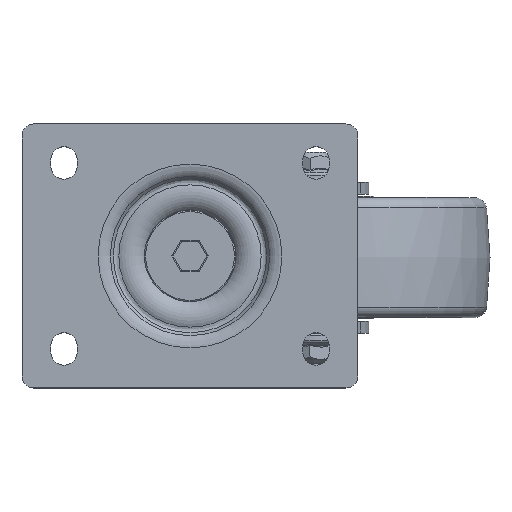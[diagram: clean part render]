
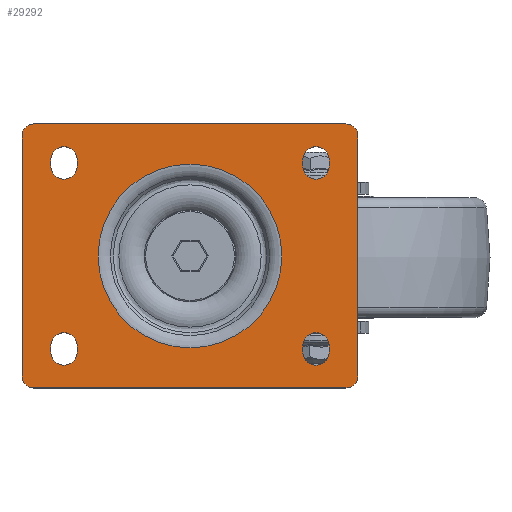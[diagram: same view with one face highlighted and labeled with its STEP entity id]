
A CAD part, top view. The second image highlights one B-rep face of the part: STEP entity #29292.
In plain terms, the highlighted planar face has unit normal (0, 0, 1).
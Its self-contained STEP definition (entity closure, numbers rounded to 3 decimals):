
#29062=CARTESIAN_POINT('',(-168.333,542.205,6.396));
#29063=DIRECTION('',(0.0,0.0,1.0));
#29064=DIRECTION('',(0.0,-1.0,0.0));
#29065=AXIS2_PLACEMENT_3D('',#29062,#29063,#29064);
#29066=PLANE('',#29065);
#29067=CARTESIAN_POINT('',(-66.085,597.205,6.396));
#29068=VERTEX_POINT('',#29067);
#29069=CARTESIAN_POINT('',(-196.085,597.205,6.396));
#29070=VERTEX_POINT('',#29069);
#29071=CARTESIAN_POINT('',(-66.085,597.205,6.396));
#29072=DIRECTION('',(-1.0,0.0,0.0));
#29073=VECTOR('',#29072,130.);
#29074=LINE('',#29071,#29073);
#29075=EDGE_CURVE('',#29068,#29070,#29074,.T.);
#29076=ORIENTED_EDGE('',*,*,#29075,.T.);
#29077=CARTESIAN_POINT('',(-201.085,592.205,6.396));
#29078=VERTEX_POINT('',#29077);
#29079=CARTESIAN_POINT('',(-196.085,592.205,6.396));
#29080=DIRECTION('',(0.0,0.0,1.0));
#29081=DIRECTION('',(1.0,0.0,0.0));
#29082=AXIS2_PLACEMENT_3D('',#29079,#29080,#29081);
#29083=CIRCLE('',#29082,5.0);
#29084=EDGE_CURVE('',#29070,#29078,#29083,.T.);
#29085=ORIENTED_EDGE('',*,*,#29084,.T.);
#29086=CARTESIAN_POINT('',(-201.085,492.205,6.396));
#29087=VERTEX_POINT('',#29086);
#29088=CARTESIAN_POINT('',(-201.085,592.205,6.396));
#29089=DIRECTION('',(0.0,-1.0,0.0));
#29090=VECTOR('',#29089,100.);
#29091=LINE('',#29088,#29090);
#29092=EDGE_CURVE('',#29078,#29087,#29091,.T.);
#29093=ORIENTED_EDGE('',*,*,#29092,.T.);
#29094=CARTESIAN_POINT('',(-196.085,487.205,6.396));
#29095=VERTEX_POINT('',#29094);
#29096=CARTESIAN_POINT('',(-196.085,492.205,6.396));
#29097=DIRECTION('',(0.0,0.0,1.0));
#29098=DIRECTION('',(1.0,0.0,0.0));
#29099=AXIS2_PLACEMENT_3D('',#29096,#29097,#29098);
#29100=CIRCLE('',#29099,5.0);
#29101=EDGE_CURVE('',#29087,#29095,#29100,.T.);
#29102=ORIENTED_EDGE('',*,*,#29101,.T.);
#29103=CARTESIAN_POINT('',(-66.085,487.205,6.396));
#29104=VERTEX_POINT('',#29103);
#29105=CARTESIAN_POINT('',(-196.085,487.205,6.396));
#29106=DIRECTION('',(1.0,0.0,0.0));
#29107=VECTOR('',#29106,130.);
#29108=LINE('',#29105,#29107);
#29109=EDGE_CURVE('',#29095,#29104,#29108,.T.);
#29110=ORIENTED_EDGE('',*,*,#29109,.T.);
#29111=CARTESIAN_POINT('',(-61.085,492.205,6.396));
#29112=VERTEX_POINT('',#29111);
#29113=CARTESIAN_POINT('',(-66.085,492.205,6.396));
#29114=DIRECTION('',(0.0,0.0,1.0));
#29115=DIRECTION('',(1.0,0.0,0.0));
#29116=AXIS2_PLACEMENT_3D('',#29113,#29114,#29115);
#29117=CIRCLE('',#29116,5.0);
#29118=EDGE_CURVE('',#29104,#29112,#29117,.T.);
#29119=ORIENTED_EDGE('',*,*,#29118,.T.);
#29120=CARTESIAN_POINT('',(-61.085,592.205,6.396));
#29121=VERTEX_POINT('',#29120);
#29122=CARTESIAN_POINT('',(-61.085,492.205,6.396));
#29123=DIRECTION('',(0.0,1.0,0.0));
#29124=VECTOR('',#29123,100.);
#29125=LINE('',#29122,#29124);
#29126=EDGE_CURVE('',#29112,#29121,#29125,.T.);
#29127=ORIENTED_EDGE('',*,*,#29126,.T.);
#29128=CARTESIAN_POINT('',(-66.085,592.205,6.396));
#29129=DIRECTION('',(0.0,0.0,1.0));
#29130=DIRECTION('',(1.0,0.0,0.0));
#29131=AXIS2_PLACEMENT_3D('',#29128,#29129,#29130);
#29132=CIRCLE('',#29131,5.0);
#29133=EDGE_CURVE('',#29121,#29068,#29132,.T.);
#29134=ORIENTED_EDGE('',*,*,#29133,.T.);
#29135=EDGE_LOOP('',(#29076,#29085,#29093,#29102,#29110,#29119,#29127,#29134));
#29136=FACE_OUTER_BOUND('',#29135,.T.);
#29137=CARTESIAN_POINT('',(-189.085,582.205,6.396));
#29138=VERTEX_POINT('',#29137);
#29139=CARTESIAN_POINT('',(-178.085,582.205,6.396));
#29140=VERTEX_POINT('',#29139);
#29141=CARTESIAN_POINT('',(-183.585,582.205,6.396));
#29142=DIRECTION('',(0.0,0.0,-1.0));
#29143=DIRECTION('',(1.0,0.0,0.0));
#29144=AXIS2_PLACEMENT_3D('',#29141,#29142,#29143);
#29145=CIRCLE('',#29144,5.5);
#29146=EDGE_CURVE('',#29138,#29140,#29145,.T.);
#29147=ORIENTED_EDGE('',*,*,#29146,.T.);
#29148=CARTESIAN_POINT('',(-178.085,579.705,6.396));
#29149=VERTEX_POINT('',#29148);
#29150=CARTESIAN_POINT('',(-178.085,582.205,6.396));
#29151=DIRECTION('',(0.0,-1.0,0.0));
#29152=VECTOR('',#29151,2.5);
#29153=LINE('',#29150,#29152);
#29154=EDGE_CURVE('',#29140,#29149,#29153,.T.);
#29155=ORIENTED_EDGE('',*,*,#29154,.T.);
#29156=CARTESIAN_POINT('',(-189.085,579.705,6.396));
#29157=VERTEX_POINT('',#29156);
#29158=CARTESIAN_POINT('',(-183.585,579.705,6.396));
#29159=DIRECTION('',(0.0,0.0,-1.0));
#29160=DIRECTION('',(1.0,0.0,0.0));
#29161=AXIS2_PLACEMENT_3D('',#29158,#29159,#29160);
#29162=CIRCLE('',#29161,5.5);
#29163=EDGE_CURVE('',#29149,#29157,#29162,.T.);
#29164=ORIENTED_EDGE('',*,*,#29163,.T.);
#29165=CARTESIAN_POINT('',(-189.085,579.705,6.396));
#29166=DIRECTION('',(0.0,1.0,0.0));
#29167=VECTOR('',#29166,2.5);
#29168=LINE('',#29165,#29167);
#29169=EDGE_CURVE('',#29157,#29138,#29168,.T.);
#29170=ORIENTED_EDGE('',*,*,#29169,.T.);
#29171=EDGE_LOOP('',(#29147,#29155,#29164,#29170));
#29172=FACE_BOUND('',#29171,.T.);
#29173=CARTESIAN_POINT('',(-73.085,579.705,6.396));
#29174=VERTEX_POINT('',#29173);
#29175=CARTESIAN_POINT('',(-84.085,579.705,6.396));
#29176=VERTEX_POINT('',#29175);
#29177=CARTESIAN_POINT('',(-78.585,579.705,6.396));
#29178=DIRECTION('',(0.0,0.0,-1.0));
#29179=DIRECTION('',(1.0,0.0,0.0));
#29180=AXIS2_PLACEMENT_3D('',#29177,#29178,#29179);
#29181=CIRCLE('',#29180,5.5);
#29182=EDGE_CURVE('',#29174,#29176,#29181,.T.);
#29183=ORIENTED_EDGE('',*,*,#29182,.T.);
#29184=CARTESIAN_POINT('',(-84.085,582.205,6.396));
#29185=VERTEX_POINT('',#29184);
#29186=CARTESIAN_POINT('',(-84.085,579.705,6.396));
#29187=DIRECTION('',(0.0,1.0,0.0));
#29188=VECTOR('',#29187,2.5);
#29189=LINE('',#29186,#29188);
#29190=EDGE_CURVE('',#29176,#29185,#29189,.T.);
#29191=ORIENTED_EDGE('',*,*,#29190,.T.);
#29192=CARTESIAN_POINT('',(-73.085,582.205,6.396));
#29193=VERTEX_POINT('',#29192);
#29194=CARTESIAN_POINT('',(-78.585,582.205,6.396));
#29195=DIRECTION('',(0.0,0.0,-1.0));
#29196=DIRECTION('',(1.0,0.0,0.0));
#29197=AXIS2_PLACEMENT_3D('',#29194,#29195,#29196);
#29198=CIRCLE('',#29197,5.5);
#29199=EDGE_CURVE('',#29185,#29193,#29198,.T.);
#29200=ORIENTED_EDGE('',*,*,#29199,.T.);
#29201=CARTESIAN_POINT('',(-73.085,582.205,6.396));
#29202=DIRECTION('',(0.0,-1.0,0.0));
#29203=VECTOR('',#29202,2.5);
#29204=LINE('',#29201,#29203);
#29205=EDGE_CURVE('',#29193,#29174,#29204,.T.);
#29206=ORIENTED_EDGE('',*,*,#29205,.T.);
#29207=EDGE_LOOP('',(#29183,#29191,#29200,#29206));
#29208=FACE_BOUND('',#29207,.T.);
#29209=CARTESIAN_POINT('',(-73.085,502.205,6.396));
#29210=VERTEX_POINT('',#29209);
#29211=CARTESIAN_POINT('',(-84.085,502.205,6.396));
#29212=VERTEX_POINT('',#29211);
#29213=CARTESIAN_POINT('',(-78.585,502.205,6.396));
#29214=DIRECTION('',(0.0,0.0,-1.0));
#29215=DIRECTION('',(1.0,0.0,0.0));
#29216=AXIS2_PLACEMENT_3D('',#29213,#29214,#29215);
#29217=CIRCLE('',#29216,5.5);
#29218=EDGE_CURVE('',#29210,#29212,#29217,.T.);
#29219=ORIENTED_EDGE('',*,*,#29218,.T.);
#29220=CARTESIAN_POINT('',(-84.085,504.705,6.396));
#29221=VERTEX_POINT('',#29220);
#29222=CARTESIAN_POINT('',(-84.085,502.205,6.396));
#29223=DIRECTION('',(0.0,1.0,0.0));
#29224=VECTOR('',#29223,2.5);
#29225=LINE('',#29222,#29224);
#29226=EDGE_CURVE('',#29212,#29221,#29225,.T.);
#29227=ORIENTED_EDGE('',*,*,#29226,.T.);
#29228=CARTESIAN_POINT('',(-73.085,504.705,6.396));
#29229=VERTEX_POINT('',#29228);
#29230=CARTESIAN_POINT('',(-78.585,504.705,6.396));
#29231=DIRECTION('',(0.0,0.0,-1.0));
#29232=DIRECTION('',(1.0,0.0,0.0));
#29233=AXIS2_PLACEMENT_3D('',#29230,#29231,#29232);
#29234=CIRCLE('',#29233,5.5);
#29235=EDGE_CURVE('',#29221,#29229,#29234,.T.);
#29236=ORIENTED_EDGE('',*,*,#29235,.T.);
#29237=CARTESIAN_POINT('',(-73.085,504.705,6.396));
#29238=DIRECTION('',(0.0,-1.0,0.0));
#29239=VECTOR('',#29238,2.5);
#29240=LINE('',#29237,#29239);
#29241=EDGE_CURVE('',#29229,#29210,#29240,.T.);
#29242=ORIENTED_EDGE('',*,*,#29241,.T.);
#29243=EDGE_LOOP('',(#29219,#29227,#29236,#29242));
#29244=FACE_BOUND('',#29243,.T.);
#29245=CARTESIAN_POINT('',(-189.085,504.705,6.396));
#29246=VERTEX_POINT('',#29245);
#29247=CARTESIAN_POINT('',(-178.085,504.705,6.396));
#29248=VERTEX_POINT('',#29247);
#29249=CARTESIAN_POINT('',(-183.585,504.705,6.396));
#29250=DIRECTION('',(0.0,0.0,-1.0));
#29251=DIRECTION('',(1.0,0.0,0.0));
#29252=AXIS2_PLACEMENT_3D('',#29249,#29250,#29251);
#29253=CIRCLE('',#29252,5.5);
#29254=EDGE_CURVE('',#29246,#29248,#29253,.T.);
#29255=ORIENTED_EDGE('',*,*,#29254,.T.);
#29256=CARTESIAN_POINT('',(-178.085,502.205,6.396));
#29257=VERTEX_POINT('',#29256);
#29258=CARTESIAN_POINT('',(-178.085,504.705,6.396));
#29259=DIRECTION('',(0.0,-1.0,0.0));
#29260=VECTOR('',#29259,2.5);
#29261=LINE('',#29258,#29260);
#29262=EDGE_CURVE('',#29248,#29257,#29261,.T.);
#29263=ORIENTED_EDGE('',*,*,#29262,.T.);
#29264=CARTESIAN_POINT('',(-189.085,502.205,6.396));
#29265=VERTEX_POINT('',#29264);
#29266=CARTESIAN_POINT('',(-183.585,502.205,6.396));
#29267=DIRECTION('',(0.0,0.0,-1.0));
#29268=DIRECTION('',(1.0,0.0,0.0));
#29269=AXIS2_PLACEMENT_3D('',#29266,#29267,#29268);
#29270=CIRCLE('',#29269,5.5);
#29271=EDGE_CURVE('',#29257,#29265,#29270,.T.);
#29272=ORIENTED_EDGE('',*,*,#29271,.T.);
#29273=CARTESIAN_POINT('',(-189.085,502.205,6.396));
#29274=DIRECTION('',(0.0,1.0,0.0));
#29275=VECTOR('',#29274,2.5);
#29276=LINE('',#29273,#29275);
#29277=EDGE_CURVE('',#29265,#29246,#29276,.T.);
#29278=ORIENTED_EDGE('',*,*,#29277,.T.);
#29279=EDGE_LOOP('',(#29255,#29263,#29272,#29278));
#29280=FACE_BOUND('',#29279,.T.);
#29281=CARTESIAN_POINT('',(-169.358,542.205,6.396));
#29282=VERTEX_POINT('',#29281);
#29283=CARTESIAN_POINT('',(-131.085,542.205,6.396));
#29284=DIRECTION('',(0.0,0.0,1.0));
#29285=DIRECTION('',(-1.0,0.0,0.0));
#29286=AXIS2_PLACEMENT_3D('',#29283,#29284,#29285);
#29287=CIRCLE('',#29286,38.273);
#29288=EDGE_CURVE('',#29282,#29282,#29287,.T.);
#29289=ORIENTED_EDGE('',*,*,#29288,.F.);
#29290=EDGE_LOOP('',(#29289));
#29291=FACE_BOUND('',#29290,.T.);
#29292=ADVANCED_FACE('',(#29136,#29172,#29208,#29244,#29280,#29291),#29066,.T.);
